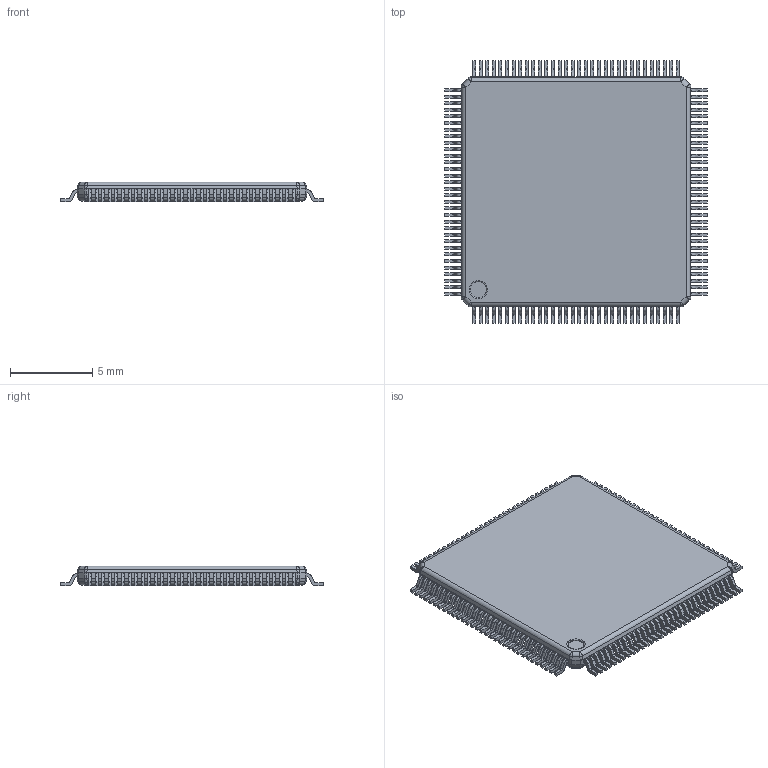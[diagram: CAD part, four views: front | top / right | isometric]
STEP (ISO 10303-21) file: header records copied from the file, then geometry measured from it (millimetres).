
FILE_DESCRIPTION (( 'STEP AP214' ), '1' );
FILE_NAME ( 'CQFP128P40_1600X1600X120L60X18.STEP', '2021-10-06T06:48:58', ( '' ), ( '' ), '', '©2017 PCB Libraries, Inc.', '' );
FILE_SCHEMA (( 'AUTOMOTIVE_DESIGN' ));
Length unit declared in the file: millimetre
Products named in the file (1): CQFP128P40_1600X1600X120L60X18
Bounding box: 16 x 16 x 1.2 mm (x, y, z)
Volume: 227.6 mm3; surface area: 573 mm2
Topology: 129 solids, 129 shells, 1879 faces, 4826 edges, 3190 vertices
Faces by surface type: plane 1307, cylinder 554, sphere 16, torus 2
Entity records: 63391 total; most frequent: CARTESIAN_POINT 10024, ORIENTED_EDGE 9620, DIRECTION 9602, EDGE_CURVE 4810, VECTOR 3682, LINE 3682, VERTEX_POINT 3190, AXIS2_PLACEMENT_3D 2960
